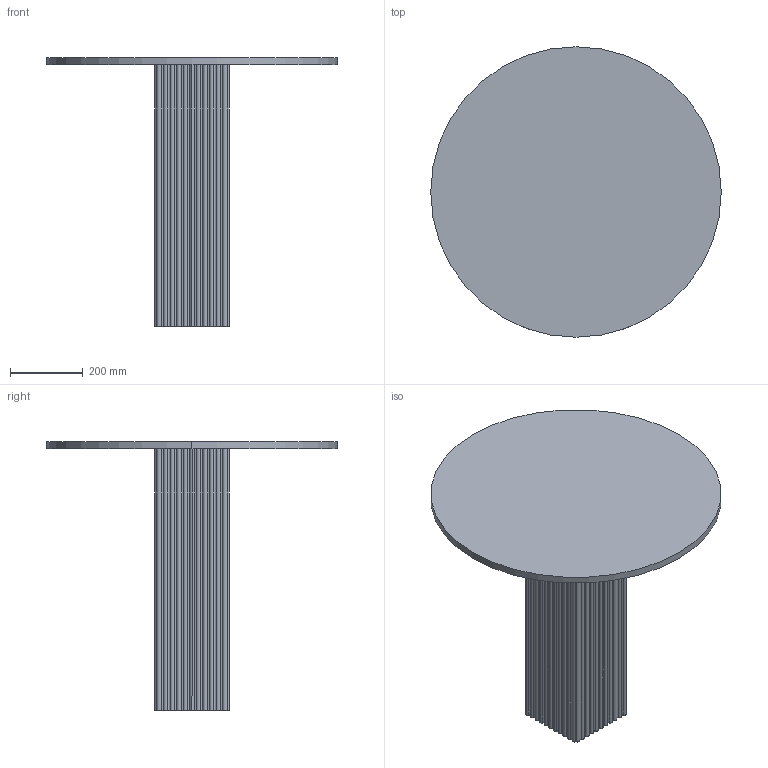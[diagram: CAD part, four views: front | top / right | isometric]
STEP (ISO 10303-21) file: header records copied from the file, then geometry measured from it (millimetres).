
FILE_DESCRIPTION(/* description */ (''),/* implementation_level */ '2;1');
FILE_NAME(/* name */ 'Soho-Dining-Table_80cm_NORR11',/* time_stamp */ '2024-11-15T13:02:35+01:00',/* author */ (''),/* organization */ (''),/* preprocessor_version */ 'ST-DEVELOPER v19.2',/* originating_system */ 'Rhino 8.13',/* authorisation */ '');
FILE_SCHEMA (('CONFIG_CONTROL_DESIGN'));
Length unit declared in the file: millimetre
Products named in the file (1): Document
Bounding box: 800 x 800 x 740 mm (x, y, z)
Volume: 38905319.3 mm3; surface area: 1865226.8 mm2
Topology: 2 solids, 2 shells, 98 faces, 282 edges, 188 vertices
Faces by surface type: cylinder 94, plane 4
Entity records: 3790 total; most frequent: CARTESIAN_POINT 1040, ORIENTED_EDGE 564, DIRECTION 478, AXIS2_PLACEMENT_3D 288, EDGE_CURVE 282, TRIMMED_CURVE 188, CIRCLE 188, VERTEX_POINT 188
